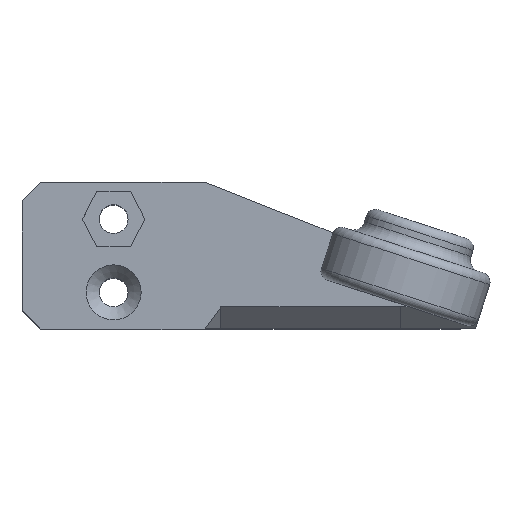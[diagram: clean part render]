
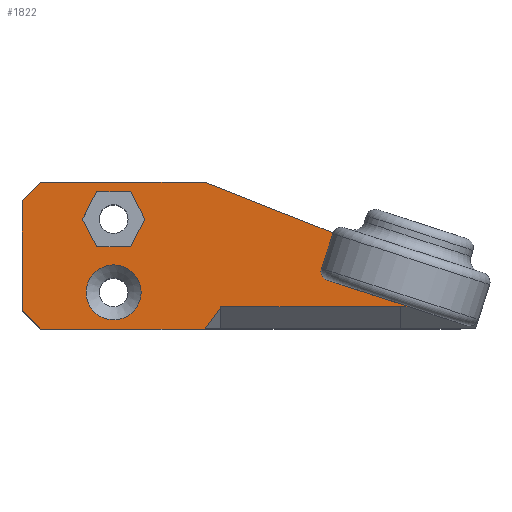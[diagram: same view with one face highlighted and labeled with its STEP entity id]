
A CAD part, top view. The second image highlights one B-rep face of the part: STEP entity #1822.
In plain terms, the highlighted planar face has unit normal (0, 0, 1).
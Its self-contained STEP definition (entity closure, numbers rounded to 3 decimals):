
#54=B_SPLINE_CURVE_WITH_KNOTS('',3,(#2805,#2806,#2807,#2808,#2809,#2810,
#2811,#2812,#2813,#2814,#2815),.UNSPECIFIED.,.F.,.F.,(4,2,3,2,4),(1.577,
1.61,1.688,1.767,1.799),
 .UNSPECIFIED.);
#67=FACE_BOUND('',#338,.T.);
#68=FACE_BOUND('',#339,.T.);
#122=PLANE('',#1963);
#224=FACE_OUTER_BOUND('',#337,.T.);
#337=EDGE_LOOP('',(#1451,#1452,#1453,#1454,#1455,#1456,#1457,#1458,#1459,
#1460,#1461,#1462,#1463,#1464,#1465,#1466));
#338=EDGE_LOOP('',(#1467,#1468,#1469,#1470,#1471,#1472));
#339=EDGE_LOOP('',(#1473));
#467=LINE('',#2666,#656);
#482=LINE('',#2738,#671);
#493=LINE('',#2765,#682);
#497=LINE('',#2772,#686);
#509=LINE('',#2798,#698);
#510=LINE('',#2801,#699);
#511=LINE('',#2803,#700);
#512=LINE('',#2816,#701);
#513=LINE('',#2818,#702);
#514=LINE('',#2820,#703);
#515=LINE('',#2822,#704);
#516=LINE('',#2824,#705);
#517=LINE('',#2825,#706);
#518=LINE('',#2828,#707);
#519=LINE('',#2830,#708);
#520=LINE('',#2832,#709);
#521=LINE('',#2834,#710);
#522=LINE('',#2836,#711);
#523=LINE('',#2837,#712);
#656=VECTOR('',#2133,10.);
#671=VECTOR('',#2218,10.);
#682=VECTOR('',#2237,10.);
#686=VECTOR('',#2243,10.);
#698=VECTOR('',#2269,10.);
#699=VECTOR('',#2272,10.);
#700=VECTOR('',#2273,10.);
#701=VECTOR('',#2274,10.);
#702=VECTOR('',#2275,10.);
#703=VECTOR('',#2276,10.);
#704=VECTOR('',#2277,10.);
#705=VECTOR('',#2278,10.);
#706=VECTOR('',#2279,10.);
#707=VECTOR('',#2280,10.);
#708=VECTOR('',#2281,10.);
#709=VECTOR('',#2282,10.);
#710=VECTOR('',#2283,10.);
#711=VECTOR('',#2284,10.);
#712=VECTOR('',#2285,10.);
#832=CIRCLE('',#1914,1.);
#838=CIRCLE('',#1928,1.);
#850=CIRCLE('',#1964,3.);
#904=VERTEX_POINT('',#2656);
#905=VERTEX_POINT('',#2657);
#907=VERTEX_POINT('',#2664);
#914=VERTEX_POINT('',#2688);
#929=VERTEX_POINT('',#2736);
#940=VERTEX_POINT('',#2762);
#941=VERTEX_POINT('',#2764);
#943=VERTEX_POINT('',#2770);
#950=VERTEX_POINT('',#2796);
#951=VERTEX_POINT('',#2800);
#952=VERTEX_POINT('',#2802);
#953=VERTEX_POINT('',#2804);
#954=VERTEX_POINT('',#2817);
#955=VERTEX_POINT('',#2819);
#956=VERTEX_POINT('',#2821);
#957=VERTEX_POINT('',#2823);
#958=VERTEX_POINT('',#2826);
#959=VERTEX_POINT('',#2827);
#960=VERTEX_POINT('',#2829);
#961=VERTEX_POINT('',#2831);
#962=VERTEX_POINT('',#2833);
#963=VERTEX_POINT('',#2835);
#964=VERTEX_POINT('',#2838);
#1077=EDGE_CURVE('',#904,#905,#832,.F.);
#1082=EDGE_CURVE('',#907,#904,#467,.T.);
#1093=EDGE_CURVE('',#914,#907,#838,.F.);
#1116=EDGE_CURVE('',#914,#929,#482,.T.);
#1128=EDGE_CURVE('',#940,#941,#493,.T.);
#1132=EDGE_CURVE('',#943,#940,#497,.T.);
#1146=EDGE_CURVE('',#950,#943,#509,.T.);
#1147=EDGE_CURVE('',#951,#941,#510,.T.);
#1148=EDGE_CURVE('',#952,#950,#511,.T.);
#1149=EDGE_CURVE('',#952,#953,#54,.T.);
#1150=EDGE_CURVE('',#905,#953,#512,.T.);
#1151=EDGE_CURVE('',#929,#954,#513,.T.);
#1152=EDGE_CURVE('',#955,#954,#514,.T.);
#1153=EDGE_CURVE('',#955,#956,#515,.T.);
#1154=EDGE_CURVE('',#957,#956,#516,.T.);
#1155=EDGE_CURVE('',#957,#951,#517,.T.);
#1156=EDGE_CURVE('',#958,#959,#518,.T.);
#1157=EDGE_CURVE('',#959,#960,#519,.T.);
#1158=EDGE_CURVE('',#960,#961,#520,.T.);
#1159=EDGE_CURVE('',#961,#962,#521,.T.);
#1160=EDGE_CURVE('',#962,#963,#522,.T.);
#1161=EDGE_CURVE('',#963,#958,#523,.T.);
#1162=EDGE_CURVE('',#964,#964,#850,.T.);
#1451=ORIENTED_EDGE('',*,*,#1147,.T.);
#1452=ORIENTED_EDGE('',*,*,#1128,.F.);
#1453=ORIENTED_EDGE('',*,*,#1132,.F.);
#1454=ORIENTED_EDGE('',*,*,#1146,.F.);
#1455=ORIENTED_EDGE('',*,*,#1148,.F.);
#1456=ORIENTED_EDGE('',*,*,#1149,.T.);
#1457=ORIENTED_EDGE('',*,*,#1150,.F.);
#1458=ORIENTED_EDGE('',*,*,#1077,.F.);
#1459=ORIENTED_EDGE('',*,*,#1082,.F.);
#1460=ORIENTED_EDGE('',*,*,#1093,.F.);
#1461=ORIENTED_EDGE('',*,*,#1116,.T.);
#1462=ORIENTED_EDGE('',*,*,#1151,.T.);
#1463=ORIENTED_EDGE('',*,*,#1152,.F.);
#1464=ORIENTED_EDGE('',*,*,#1153,.T.);
#1465=ORIENTED_EDGE('',*,*,#1154,.F.);
#1466=ORIENTED_EDGE('',*,*,#1155,.T.);
#1467=ORIENTED_EDGE('',*,*,#1156,.T.);
#1468=ORIENTED_EDGE('',*,*,#1157,.T.);
#1469=ORIENTED_EDGE('',*,*,#1158,.T.);
#1470=ORIENTED_EDGE('',*,*,#1159,.T.);
#1471=ORIENTED_EDGE('',*,*,#1160,.T.);
#1472=ORIENTED_EDGE('',*,*,#1161,.T.);
#1473=ORIENTED_EDGE('',*,*,#1162,.T.);
#1822=ADVANCED_FACE('',(#224,#67,#68),#122,.T.);
#1914=AXIS2_PLACEMENT_3D('',#2658,#2125,#2126);
#1928=AXIS2_PLACEMENT_3D('',#2689,#2161,#2162);
#1963=AXIS2_PLACEMENT_3D('',#2799,#2270,#2271);
#1964=AXIS2_PLACEMENT_3D('',#2839,#2286,#2287);
#2125=DIRECTION('center_axis',(0.,0.,-1.));
#2126=DIRECTION('ref_axis',(-0.891,-0.454,0.));
#2133=DIRECTION('',(-0.309,-0.951,0.));
#2161=DIRECTION('center_axis',(0.,0.,-1.));
#2162=DIRECTION('ref_axis',(-0.454,0.891,0.));
#2218=DIRECTION('',(-0.93,0.367,0.));
#2237=DIRECTION('',(-0.577,-0.816,0.));
#2243=DIRECTION('',(-1.,0.,0.));
#2269=DIRECTION('',(-1.,-0.008,0.));
#2270=DIRECTION('center_axis',(0.,0.,1.));
#2271=DIRECTION('ref_axis',(1.,0.,0.));
#2272=DIRECTION('',(0.,1.,0.));
#2273=DIRECTION('',(0.951,-0.309,0.));
#2274=DIRECTION('',(0.951,-0.309,0.));
#2275=DIRECTION('',(-1.,0.,0.));
#2276=DIRECTION('',(0.707,0.707,0.));
#2277=DIRECTION('',(0.,-1.,0.));
#2278=DIRECTION('',(-0.707,0.707,0.));
#2279=DIRECTION('',(1.,0.,0.));
#2280=DIRECTION('',(-0.459,-0.888,0.));
#2281=DIRECTION('',(-1.,0.,0.));
#2282=DIRECTION('',(-0.459,0.888,0.));
#2283=DIRECTION('',(0.459,0.888,0.));
#2284=DIRECTION('',(1.,0.,0.));
#2285=DIRECTION('',(0.459,-0.888,0.));
#2286=DIRECTION('center_axis',(0.,0.,-1.));
#2287=DIRECTION('ref_axis',(1.,0.,0.));
#2656=CARTESIAN_POINT('',(-7.323,6.585,18.));
#2657=CARTESIAN_POINT('',(-6.681,5.325,18.));
#2658=CARTESIAN_POINT('Origin',(-6.372,6.276,18.));
#2664=CARTESIAN_POINT('',(-6.087,10.39,18.));
#2666=CARTESIAN_POINT('',(-6.991,7.609,18.));
#2688=CARTESIAN_POINT('',(-6.047,10.494,18.));
#2689=CARTESIAN_POINT('Origin',(-5.136,10.081,18.));
#2736=CARTESIAN_POINT('',(-20.,16.,18.));
#2738=CARTESIAN_POINT('',(10.723,3.876,18.));
#2762=CARTESIAN_POINT('',(-18.305,2.41,18.));
#2764=CARTESIAN_POINT('',(-20.,0.013,18.));
#2765=CARTESIAN_POINT('',(-18.37,2.318,18.));
#2770=CARTESIAN_POINT('',(1.308,2.41,18.));
#2772=CARTESIAN_POINT('',(-6.19,2.41,18.));
#2796=CARTESIAN_POINT('',(2.269,2.417,18.));
#2798=CARTESIAN_POINT('',(-3.558,2.373,18.));
#2799=CARTESIAN_POINT('Origin',(-7.123,5.629,18.));
#2800=CARTESIAN_POINT('',(-20.,0.,18.));
#2801=CARTESIAN_POINT('',(-20.,2.814,18.));
#2802=CARTESIAN_POINT('',(2.056,2.486,18.));
#2803=CARTESIAN_POINT('',(-7.401,5.559,18.));
#2804=CARTESIAN_POINT('',(-0.202,3.22,18.));
#2805=CARTESIAN_POINT('Ctrl Pts',(2.056,2.486,18.));
#2806=CARTESIAN_POINT('Ctrl Pts',(1.952,2.52,18.));
#2807=CARTESIAN_POINT('Ctrl Pts',(1.828,2.561,18.));
#2808=CARTESIAN_POINT('Ctrl Pts',(1.476,2.678,18.));
#2809=CARTESIAN_POINT('Ctrl Pts',(1.178,2.777,18.));
#2810=CARTESIAN_POINT('Ctrl Pts',(0.929,2.858,18.));
#2811=CARTESIAN_POINT('Ctrl Pts',(0.68,2.939,18.));
#2812=CARTESIAN_POINT('Ctrl Pts',(0.38,3.034,18.));
#2813=CARTESIAN_POINT('Ctrl Pts',(0.027,3.146,18.));
#2814=CARTESIAN_POINT('Ctrl Pts',(-0.098,3.186,
18.));
#2815=CARTESIAN_POINT('Ctrl Pts',(-0.202,3.22,18.));
#2816=CARTESIAN_POINT('',(-7.401,5.559,18.));
#2817=CARTESIAN_POINT('',(-38.,16.,18.));
#2818=CARTESIAN_POINT('',(-20.,16.,18.));
#2819=CARTESIAN_POINT('',(-40.,14.,18.));
#2820=CARTESIAN_POINT('',(-33.374,20.626,18.));
#2821=CARTESIAN_POINT('',(-40.,2.,18.));
#2822=CARTESIAN_POINT('',(-40.,16.,18.));
#2823=CARTESIAN_POINT('',(-38.,0.,18.));
#2824=CARTESIAN_POINT('',(-32.188,-5.812,18.));
#2825=CARTESIAN_POINT('',(-40.,0.,18.));
#2826=CARTESIAN_POINT('',(-26.6,12.,18.));
#2827=CARTESIAN_POINT('',(-28.15,9.,18.));
#2828=CARTESIAN_POINT('',(-25.847,13.457,18.));
#2829=CARTESIAN_POINT('',(-31.85,9.,18.));
#2830=CARTESIAN_POINT('',(-17.637,9.,18.));
#2831=CARTESIAN_POINT('',(-33.4,12.,18.));
#2832=CARTESIAN_POINT('',(-28.558,2.628,18.));
#2833=CARTESIAN_POINT('',(-31.85,15.,18.));
#2834=CARTESIAN_POINT('',(-31.931,14.844,18.));
#2835=CARTESIAN_POINT('',(-28.15,15.,18.));
#2836=CARTESIAN_POINT('',(-19.487,15.,18.));
#2837=CARTESIAN_POINT('',(-24.024,7.014,18.));
#2838=CARTESIAN_POINT('',(-27.,4.,18.));
#2839=CARTESIAN_POINT('Origin',(-30.,4.,18.));
